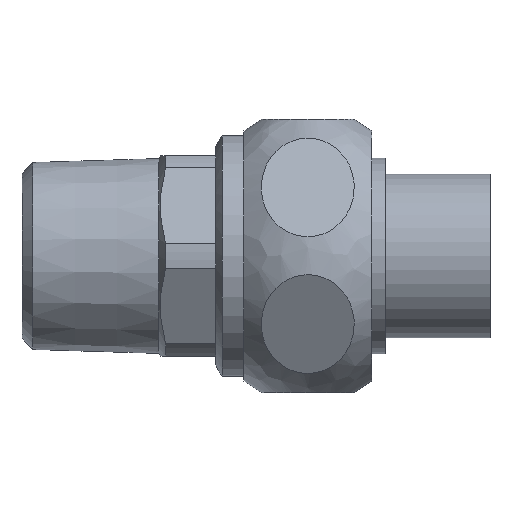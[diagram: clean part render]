
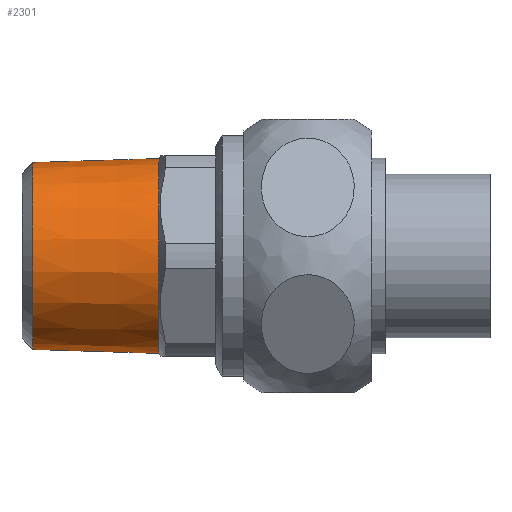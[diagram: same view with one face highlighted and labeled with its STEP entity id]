
A CAD part, top view. The second image highlights one B-rep face of the part: STEP entity #2301.
In plain terms, the highlighted conical face has half-angle 1.79 degrees and reference radius 10.457 mm.
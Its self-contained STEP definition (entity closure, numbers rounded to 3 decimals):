
#2270=CARTESIAN_POINT('',(-0.965,10.26,0.));
#2271=VERTEX_POINT('',#2270);
#2272=CARTESIAN_POINT('',(-0.965,0.0,0.));
#2273=DIRECTION('',(-1.0,0.0,0.0));
#2274=DIRECTION('',(0.0,-1.0,0.0));
#2275=AXIS2_PLACEMENT_3D('',#2272,#2273,#2274);
#2276=CIRCLE('',#2275,10.26);
#2277=EDGE_CURVE('',#2271,#2271,#2276,.T.);
#2282=CARTESIAN_POINT('',(5.336,0.,0.0));
#2283=DIRECTION('',(1.0,0.,0.0));
#2284=DIRECTION('',(0.0,1.0,0.0));
#2285=AXIS2_PLACEMENT_3D('',#2282,#2283,#2284);
#2286=CONICAL_SURFACE('',#2285,10.457,1.79);
#2287=CARTESIAN_POINT('',(12.836,10.691,0.0));
#2288=VERTEX_POINT('',#2287);
#2289=CARTESIAN_POINT('',(12.836,0.,0.0));
#2290=DIRECTION('',(1.0,0.0,0.0));
#2291=DIRECTION('',(0.0,1.0,0.0));
#2292=AXIS2_PLACEMENT_3D('',#2289,#2290,#2291);
#2293=CIRCLE('',#2292,10.691);
#2294=EDGE_CURVE('',#2288,#2288,#2293,.T.);
#2295=ORIENTED_EDGE('',*,*,#2294,.F.);
#2296=EDGE_LOOP('',(#2295));
#2297=FACE_OUTER_BOUND('',#2296,.T.);
#2298=ORIENTED_EDGE('',*,*,#2277,.F.);
#2299=EDGE_LOOP('',(#2298));
#2300=FACE_BOUND('',#2299,.T.);
#2301=ADVANCED_FACE('',(#2297,#2300),#2286,.T.);
